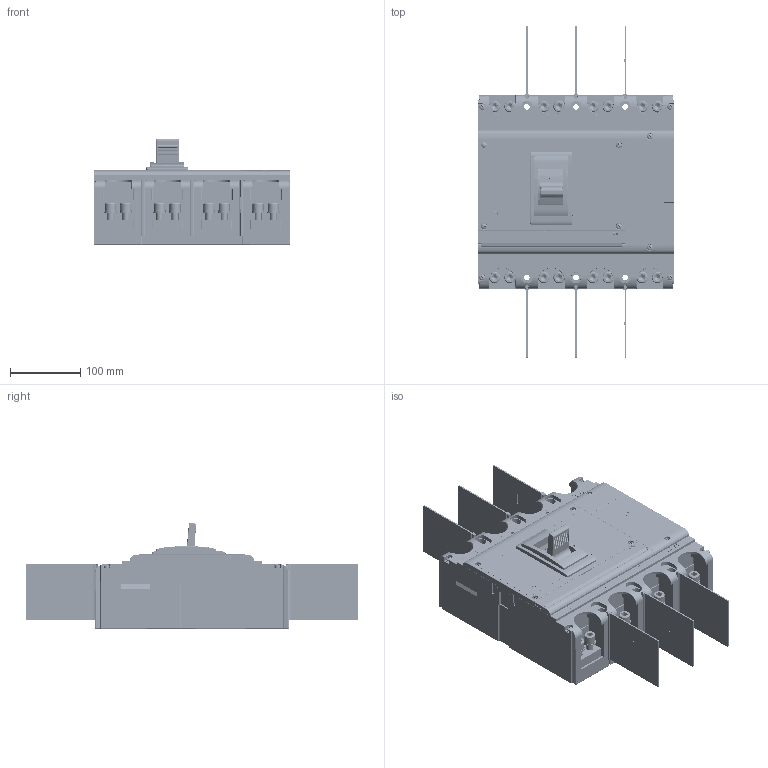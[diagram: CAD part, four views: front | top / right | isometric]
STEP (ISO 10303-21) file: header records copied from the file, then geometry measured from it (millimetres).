
FILE_DESCRIPTION (( 'STEP AP214' ), '1' );
FILE_NAME ('TGM1NE 1250-4p.STEP', '2025-12-03T07:50:51', ( '' ), ( '' ), 'SwSTEP 2.0', 'SolidWorks 2024', '' );
FILE_SCHEMA (( 'AUTOMOTIVE_DESIGN' ));
Length unit declared in the file: millimetre
Products named in the file (12): TGM1NE 1250-4p.stp; 2TZD_259_6100_SW0001_7.stp; 2TZD_259_6100_SW0001_4.stp; 2TZD_259_6100_SW0001_1.stp; 2TZD_259_6100_SW0001_10.stp; 2TZD_259_6100_SW0001_9.stp; TGM1NE 1250-4p; 2TZD_259_6100_SW0001_2.stp; 2TZD_259_6100_SW0001_5.stp; 2TZD_259_6100_SW0001_8.stp; 2TZD_259_6100_SW0001_6.stp; 2TZD_259_6100_SW0001_3.stp
Assembly tree (11 placements, depth 3):
  TGM1NE 1250-4p
    TGM1NE 1250-4p.stp
      2TZD_259_6100_SW0001_1.stp
      2TZD_259_6100_SW0001_2.stp
      2TZD_259_6100_SW0001_3.stp
      2TZD_259_6100_SW0001_4.stp
      2TZD_259_6100_SW0001_5.stp
      2TZD_259_6100_SW0001_6.stp
      2TZD_259_6100_SW0001_7.stp
      2TZD_259_6100_SW0001_8.stp
      2TZD_259_6100_SW0001_9.stp
      2TZD_259_6100_SW0001_10.stp
Bounding box: 280 x 472.5 x 151.36 mm (x, y, z)
Volume: 2689137.8 mm3; surface area: 1181135.7 mm2
Topology: 9 solids, 11 shells, 11566 faces, 31542 edges, 20101 vertices
Faces by surface type: plane 7395, cylinder 2892, bspline 626, cone 251, torus 215, sphere 187
Entity records: 403042 total; most frequent: CARTESIAN_POINT 113771, ORIENTED_EDGE 62756, DIRECTION 56646, EDGE_CURVE 31378, VECTOR 22060, LINE 22060, VERTEX_POINT 20062, AXIS2_PLACEMENT_3D 17293
